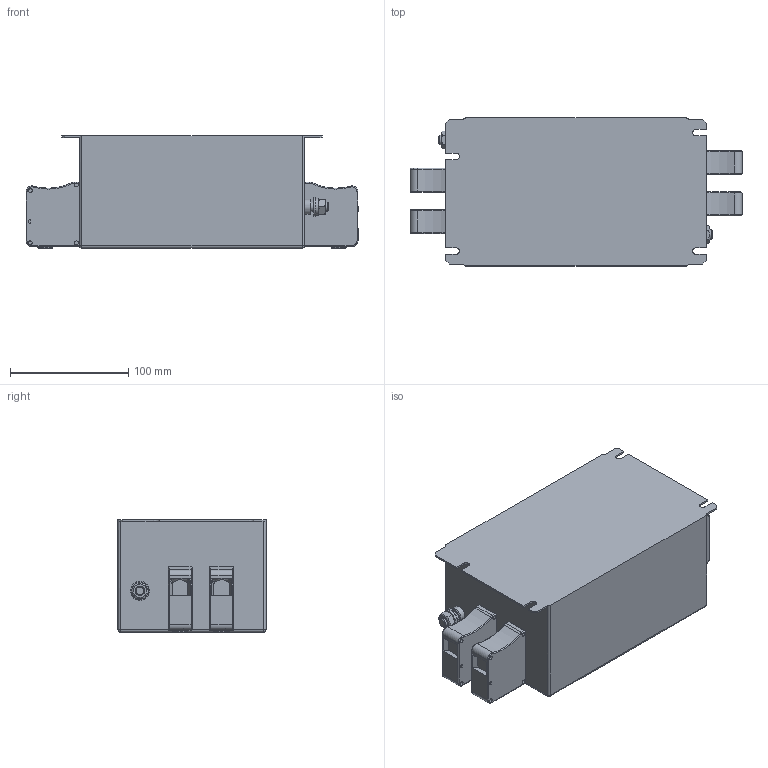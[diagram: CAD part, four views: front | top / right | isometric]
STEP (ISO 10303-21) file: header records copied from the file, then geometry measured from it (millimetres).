
FILE_DESCRIPTION((''),'2;1');
FILE_NAME('P:\Construction\Filter_Marketing\FN\FN2200\FN2200-100-35\FN2200-100-35.stp','2014-03-31T15:37:43',('erika.jenzer'),(''),'Autodesk Inventor 2013','Autodesk Inventor 2013','');
FILE_SCHEMA(('AUTOMOTIVE_DESIGN { 1 0 10303 214 1 1 1 1 }'));
Length unit declared in the file: millimetre
Products named in the file (1): FN2200-100-35
Bounding box: 280.4 x 125 x 95 mm (x, y, z)
Volume: 2444728.9 mm3; surface area: 143587.3 mm2
Topology: 1 solids, 1 shells, 362 faces, 828 edges, 514 vertices
Faces by surface type: plane 180, cylinder 98, torus 44, bspline 28, cone 8, sphere 4
Full cylindrical faces by diameter (mm): 3.3 x16, 6.8 x4, 8 x4, 8.4 x2, 12.65 x2, 16 x2
Entity records: 10774 total; most frequent: CARTESIAN_POINT 2531, DIRECTION 1594, ORIENTED_EDGE 1548, EDGE_CURVE 774, AXIS2_PLACEMENT_3D 609, VERTEX_POINT 510, EDGE_LOOP 462, VECTOR 376
